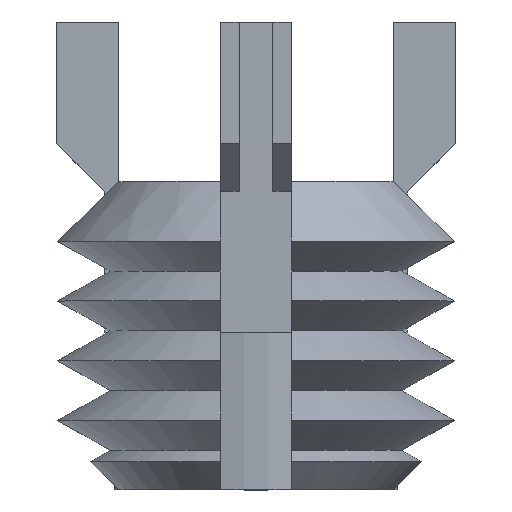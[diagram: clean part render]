
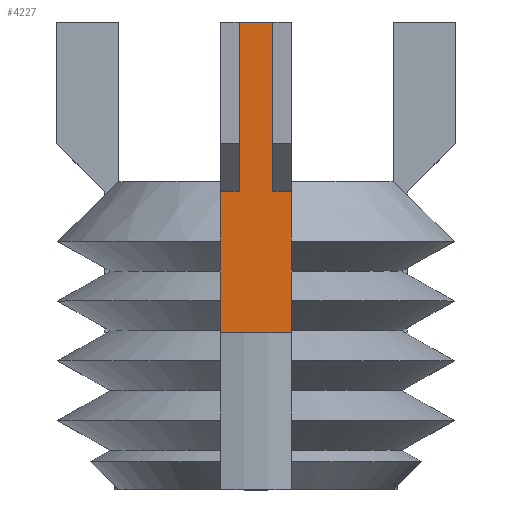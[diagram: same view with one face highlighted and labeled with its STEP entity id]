
A CAD part, top view. The second image highlights one B-rep face of the part: STEP entity #4227.
In plain terms, the highlighted planar face has unit normal (0, 0, 1).
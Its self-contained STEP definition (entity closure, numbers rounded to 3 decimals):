
#24 = LINE ( 'NONE', #1318, #4059 ) ;
#88 = CARTESIAN_POINT ( 'NONE',  ( -1.25, -5.351, 5.369 ) ) ;
#96 = EDGE_CURVE ( 'NONE', #4191, #946, #1423, .T. ) ;
#123 = FACE_OUTER_BOUND ( 'NONE', #1714, .T. ) ;
#125 = ORIENTED_EDGE ( 'NONE', *, *, #779, .T. ) ;
#157 = CARTESIAN_POINT ( 'NONE',  ( -1.25, -5.176, 5.369 ) ) ;
#205 = AXIS2_PLACEMENT_3D ( 'NONE', #3288, #3938, #4296 ) ;
#307 = CARTESIAN_POINT ( 'NONE',  ( 1.25, 5.649, 5.369 ) ) ;
#458 = CARTESIAN_POINT ( 'NONE',  ( 1.25, -0.351, 5.369 ) ) ;
#459 = EDGE_CURVE ( 'NONE', #774, #3600, #2962, .T. ) ;
#488 = ORIENTED_EDGE ( 'NONE', *, *, #3116, .T. ) ;
#513 = EDGE_CURVE ( 'NONE', #2766, #2377, #1110, .T. ) ;
#521 = VERTEX_POINT ( 'NONE', #4254 ) ;
#620 = CARTESIAN_POINT ( 'NONE',  ( -1.25, -3.292, 5.369 ) ) ;
#626 = CARTESIAN_POINT ( 'NONE',  ( 1.25, -5.351, 5.369 ) ) ;
#634 = VECTOR ( 'NONE', #4126, 1000. ) ;
#667 = CARTESIAN_POINT ( 'NONE',  ( 1.25, -5.351, 5.369 ) ) ;
#678 = EDGE_CURVE ( 'NONE', #1768, #3768, #1789, .T. ) ;
#774 = VERTEX_POINT ( 'NONE', #4081 ) ;
#779 = EDGE_CURVE ( 'NONE', #3705, #521, #2575, .T. ) ;
#806 = VECTOR ( 'NONE', #2910, 1000. ) ;
#822 = CARTESIAN_POINT ( 'NONE',  ( 1.25, -3.292, 5.369 ) ) ;
#853 = CARTESIAN_POINT ( 'NONE',  ( 1.25, -5.351, 5.369 ) ) ;
#869 = CARTESIAN_POINT ( 'NONE',  ( 1.25, -0.351, 5.369 ) ) ;
#897 = VERTEX_POINT ( 'NONE', #4103 ) ;
#908 = VECTOR ( 'NONE', #3835, 1000. ) ;
#922 = ORIENTED_EDGE ( 'NONE', *, *, #3274, .F. ) ;
#946 = VERTEX_POINT ( 'NONE', #1838 ) ;
#951 = PLANE ( 'NONE',  #205 ) ;
#971 = DIRECTION ( 'NONE',  ( 0., -1., 0. ) ) ;
#983 = CARTESIAN_POINT ( 'NONE',  ( -1.25, -0.486, 5.369 ) ) ;
#997 = LINE ( 'NONE', #626, #2191 ) ;
#1003 = DIRECTION ( 'NONE',  ( 0., -1., 0. ) ) ;
#1074 = ORIENTED_EDGE ( 'NONE', *, *, #3070, .F. ) ;
#1110 = LINE ( 'NONE', #2585, #806 ) ;
#1159 = VECTOR ( 'NONE', #3446, 1000. ) ;
#1192 = VERTEX_POINT ( 'NONE', #667 ) ;
#1207 = VECTOR ( 'NONE', #1499, 1000. ) ;
#1265 = VECTOR ( 'NONE', #1647, 1000. ) ;
#1305 = VERTEX_POINT ( 'NONE', #2842 ) ;
#1308 = LINE ( 'NONE', #2358, #1727 ) ;
#1318 = CARTESIAN_POINT ( 'NONE',  ( -1.25, -5.351, 5.369 ) ) ;
#1341 = CARTESIAN_POINT ( 'NONE',  ( -0.6, 5.649, 5.369 ) ) ;
#1356 = CARTESIAN_POINT ( 'NONE',  ( 1.25, -5.351, 5.369 ) ) ;
#1423 = LINE ( 'NONE', #307, #1844 ) ;
#1462 = VECTOR ( 'NONE', #3456, 1000. ) ;
#1499 = DIRECTION ( 'NONE',  ( 0., -1., 0. ) ) ;
#1609 = CARTESIAN_POINT ( 'NONE',  ( -1.25, -0.351, 5.369 ) ) ;
#1612 = EDGE_CURVE ( 'NONE', #774, #4191, #3511, .T. ) ;
#1625 = LINE ( 'NONE', #2094, #2605 ) ;
#1647 = DIRECTION ( 'NONE',  ( 0., 1., 0. ) ) ;
#1660 = CARTESIAN_POINT ( 'NONE',  ( -1.25, -5.351, 5.369 ) ) ;
#1714 = EDGE_LOOP ( 'NONE', ( #3436, #3380, #2190, #1074, #922, #3905, #2941, #2895, #3575, #2829, #4107, #1918, #4111, #125, #1776, #488 ) ) ;
#1727 = VECTOR ( 'NONE', #2646, 1000. ) ;
#1768 = VERTEX_POINT ( 'NONE', #458 ) ;
#1776 = ORIENTED_EDGE ( 'NONE', *, *, #3684, .T. ) ;
#1778 = EDGE_CURVE ( 'NONE', #1305, #1192, #2100, .T. ) ;
#1789 = LINE ( 'NONE', #3003, #4030 ) ;
#1812 = EDGE_CURVE ( 'NONE', #1192, #897, #4182, .T. ) ;
#1838 = CARTESIAN_POINT ( 'NONE',  ( 0.6, 5.649, 5.369 ) ) ;
#1844 = VECTOR ( 'NONE', #3622, 1000. ) ;
#1873 = LINE ( 'NONE', #2107, #1462 ) ;
#1897 = VECTOR ( 'NONE', #2728, 1000. ) ;
#1918 = ORIENTED_EDGE ( 'NONE', *, *, #459, .T. ) ;
#1978 = LINE ( 'NONE', #4140, #634 ) ;
#2017 = DIRECTION ( 'NONE',  ( -1., 0., 0. ) ) ;
#2027 = CARTESIAN_POINT ( 'NONE',  ( 0.6, -0.351, 5.369 ) ) ;
#2094 = CARTESIAN_POINT ( 'NONE',  ( 1.25, -5.351, 5.369 ) ) ;
#2100 = LINE ( 'NONE', #853, #1207 ) ;
#2107 = CARTESIAN_POINT ( 'NONE',  ( 1.25, -5.351, 5.369 ) ) ;
#2190 = ORIENTED_EDGE ( 'NONE', *, *, #1778, .F. ) ;
#2191 = VECTOR ( 'NONE', #3389, 1000. ) ;
#2256 = EDGE_CURVE ( 'NONE', #3600, #3705, #4024, .T. ) ;
#2339 = VERTEX_POINT ( 'NONE', #822 ) ;
#2358 = CARTESIAN_POINT ( 'NONE',  ( -1.25, -5.351, 5.369 ) ) ;
#2377 = VERTEX_POINT ( 'NONE', #3516 ) ;
#2468 = CARTESIAN_POINT ( 'NONE',  ( -1.25, -5.351, 5.369 ) ) ;
#2575 = LINE ( 'NONE', #88, #1897 ) ;
#2585 = CARTESIAN_POINT ( 'NONE',  ( 1.25, -5.351, 5.369 ) ) ;
#2605 = VECTOR ( 'NONE', #3733, 1000. ) ;
#2646 = DIRECTION ( 'NONE',  ( 0., -1., 0. ) ) ;
#2705 = DIRECTION ( 'NONE',  ( -1., 0., 0. ) ) ;
#2728 = DIRECTION ( 'NONE',  ( 0., -1., 0. ) ) ;
#2766 = VERTEX_POINT ( 'NONE', #2820 ) ;
#2820 = CARTESIAN_POINT ( 'NONE',  ( 1.25, -0.486, 5.369 ) ) ;
#2829 = ORIENTED_EDGE ( 'NONE', *, *, #96, .F. ) ;
#2832 = VECTOR ( 'NONE', #1003, 1000. ) ;
#2842 = CARTESIAN_POINT ( 'NONE',  ( 1.25, -5.176, 5.369 ) ) ;
#2865 = VERTEX_POINT ( 'NONE', #157 ) ;
#2895 = ORIENTED_EDGE ( 'NONE', *, *, #678, .T. ) ;
#2910 = DIRECTION ( 'NONE',  ( 0., -1., 0. ) ) ;
#2941 = ORIENTED_EDGE ( 'NONE', *, *, #3330, .F. ) ;
#2962 = LINE ( 'NONE', #869, #908 ) ;
#2984 = CARTESIAN_POINT ( 'NONE',  ( -0.6, -10.922, 5.369 ) ) ;
#3003 = CARTESIAN_POINT ( 'NONE',  ( 1.25, -0.351, 5.369 ) ) ;
#3070 = EDGE_CURVE ( 'NONE', #2339, #1305, #997, .T. ) ;
#3116 = EDGE_CURVE ( 'NONE', #3653, #2865, #1308, .T. ) ;
#3185 = EDGE_CURVE ( 'NONE', #2865, #897, #3856, .T. ) ;
#3274 = EDGE_CURVE ( 'NONE', #2377, #2339, #1625, .T. ) ;
#3288 = CARTESIAN_POINT ( 'NONE',  ( 1.25, -5.351, 5.369 ) ) ;
#3330 = EDGE_CURVE ( 'NONE', #1768, #2766, #1873, .T. ) ;
#3380 = ORIENTED_EDGE ( 'NONE', *, *, #1812, .F. ) ;
#3389 = DIRECTION ( 'NONE',  ( 0., -1., 0. ) ) ;
#3413 = EDGE_CURVE ( 'NONE', #3768, #946, #1978, .T. ) ;
#3436 = ORIENTED_EDGE ( 'NONE', *, *, #3185, .T. ) ;
#3446 = DIRECTION ( 'NONE',  ( 0., -1., 0. ) ) ;
#3456 = DIRECTION ( 'NONE',  ( 0., -1., 0. ) ) ;
#3511 = LINE ( 'NONE', #2984, #1265 ) ;
#3516 = CARTESIAN_POINT ( 'NONE',  ( 1.25, -3.059, 5.369 ) ) ;
#3575 = ORIENTED_EDGE ( 'NONE', *, *, #3413, .T. ) ;
#3600 = VERTEX_POINT ( 'NONE', #1609 ) ;
#3622 = DIRECTION ( 'NONE',  ( 1., 0., 0. ) ) ;
#3653 = VERTEX_POINT ( 'NONE', #620 ) ;
#3684 = EDGE_CURVE ( 'NONE', #521, #3653, #24, .T. ) ;
#3705 = VERTEX_POINT ( 'NONE', #983 ) ;
#3733 = DIRECTION ( 'NONE',  ( 0., -1., 0. ) ) ;
#3768 = VERTEX_POINT ( 'NONE', #2027 ) ;
#3835 = DIRECTION ( 'NONE',  ( -1., 0., 0. ) ) ;
#3856 = LINE ( 'NONE', #1660, #2832 ) ;
#3905 = ORIENTED_EDGE ( 'NONE', *, *, #513, .F. ) ;
#3919 = VECTOR ( 'NONE', #2705, 1000. ) ;
#3938 = DIRECTION ( 'NONE',  ( 0., 0., -1. ) ) ;
#4024 = LINE ( 'NONE', #2468, #1159 ) ;
#4030 = VECTOR ( 'NONE', #2017, 1000. ) ;
#4059 = VECTOR ( 'NONE', #971, 1000. ) ;
#4081 = CARTESIAN_POINT ( 'NONE',  ( -0.6, -0.351, 5.369 ) ) ;
#4103 = CARTESIAN_POINT ( 'NONE',  ( -1.25, -5.351, 5.369 ) ) ;
#4107 = ORIENTED_EDGE ( 'NONE', *, *, #1612, .F. ) ;
#4111 = ORIENTED_EDGE ( 'NONE', *, *, #2256, .T. ) ;
#4126 = DIRECTION ( 'NONE',  ( 0., 1., 0. ) ) ;
#4140 = CARTESIAN_POINT ( 'NONE',  ( 0.6, -10.922, 5.369 ) ) ;
#4182 = LINE ( 'NONE', #1356, #3919 ) ;
#4191 = VERTEX_POINT ( 'NONE', #1341 ) ;
#4227 = ADVANCED_FACE ( 'NONE', ( #123 ), #951, .F. ) ;
#4254 = CARTESIAN_POINT ( 'NONE',  ( -1.25, -3.059, 5.369 ) ) ;
#4296 = DIRECTION ( 'NONE',  ( -1., 0., 0. ) ) ;
